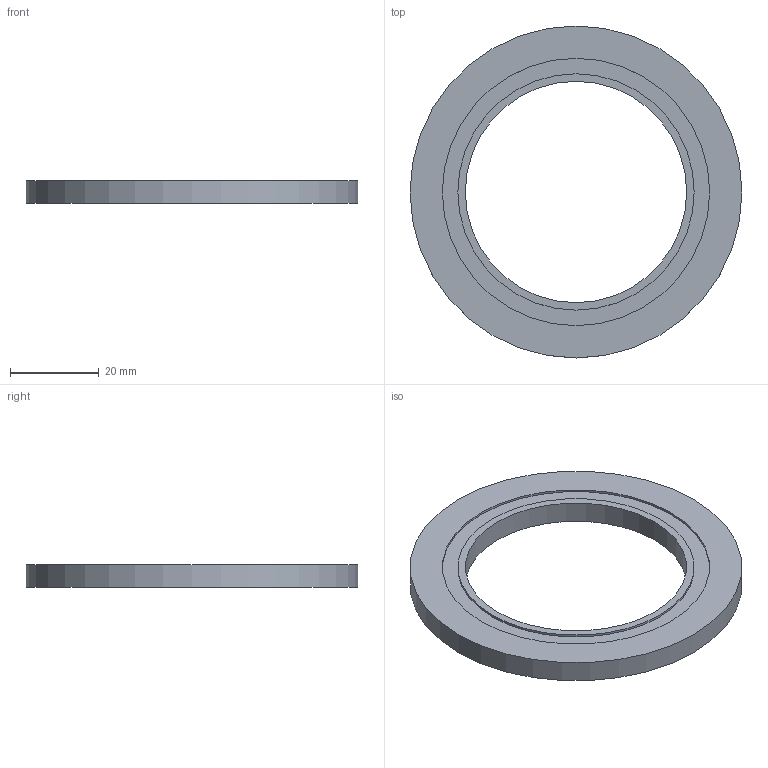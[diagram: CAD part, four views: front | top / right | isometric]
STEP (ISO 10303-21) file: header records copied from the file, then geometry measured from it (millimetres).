
FILE_DESCRIPTION(/* description */ (''),/* implementation_level */ '2;1');
FILE_NAME(/* name */ 'W:\WEBOVKY\Knecht\VD-OP\VD50-OP\VD50-OP.stp',/* time_stamp */ '2021-03-08T12:32:48+01:00',/* author */ ('mkorenek'),/* organization */ (''),/* preprocessor_version */ 'ST-DEVELOPER v18.1',/* originating_system */ 'Autodesk Inventor 2021',/* authorisation */ '');
FILE_SCHEMA (('AUTOMOTIVE_DESIGN { 1 0 10303 214 3 1 1 }'));
Length unit declared in the file: millimetre
Products named in the file (1): VD16
Bounding box: 75 x 75 x 5 mm (x, y, z)
Volume: 11959 mm3; surface area: 7051 mm2
Topology: 1 solids, 1 shells, 8 faces, 16 edges, 12 vertices
Faces by surface type: plane 4, cylinder 4
Full cylindrical faces by diameter (mm): 50 x1, 53.4 x1, 60.4 x1, 75 x1
Entity records: 269 total; most frequent: DIRECTION 46, CARTESIAN_POINT 37, ORIENTED_EDGE 32, AXIS2_PLACEMENT_3D 21, EDGE_CURVE 16, EDGE_LOOP 12, CIRCLE 12, VERTEX_POINT 12
